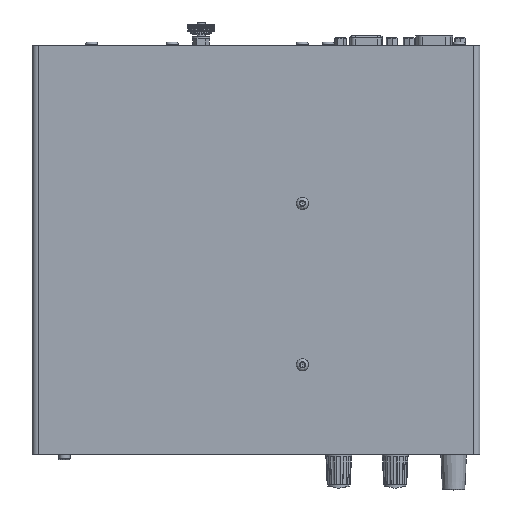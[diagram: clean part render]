
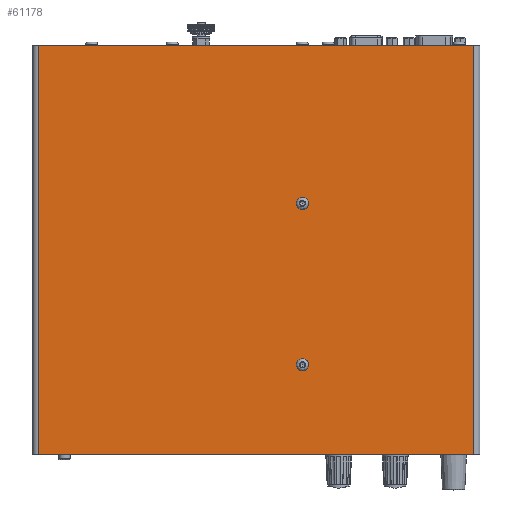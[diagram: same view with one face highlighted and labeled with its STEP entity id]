
A CAD part, top view. The second image highlights one B-rep face of the part: STEP entity #61178.
In plain terms, the highlighted planar face has unit normal (0, 0, 1).
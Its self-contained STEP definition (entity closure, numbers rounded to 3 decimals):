
#2688=FACE_BOUND('',#14449,.T.);
#2689=FACE_BOUND('',#14450,.T.);
#4505=PLANE('',#66341);
#10534=FACE_OUTER_BOUND('',#14448,.T.);
#14448=EDGE_LOOP('',(#53038,#53039,#53040,#53041));
#14449=EDGE_LOOP('',(#53042));
#14450=EDGE_LOOP('',(#53043));
#17549=CIRCLE('',#66342,3.);
#17550=CIRCLE('',#66343,3.);
#21615=LINE('',#105648,#26007);
#21626=LINE('',#105678,#26018);
#21628=LINE('',#105685,#26020);
#21631=LINE('',#105691,#26023);
#26007=VECTOR('',#79573,10.);
#26018=VECTOR('',#79602,10.);
#26020=VECTOR('',#79612,10.);
#26023=VECTOR('',#79621,10.);
#31436=VERTEX_POINT('',#105645);
#31437=VERTEX_POINT('',#105647);
#31446=VERTEX_POINT('',#105675);
#31447=VERTEX_POINT('',#105677);
#31449=VERTEX_POINT('',#105697);
#31450=VERTEX_POINT('',#105699);
#38912=EDGE_CURVE('',#31436,#31437,#21615,.T.);
#38928=EDGE_CURVE('',#31446,#31447,#21626,.T.);
#38932=EDGE_CURVE('',#31436,#31447,#21628,.T.);
#38935=EDGE_CURVE('',#31446,#31437,#21631,.T.);
#38938=EDGE_CURVE('',#31449,#31449,#17549,.T.);
#38939=EDGE_CURVE('',#31450,#31450,#17550,.T.);
#53038=ORIENTED_EDGE('',*,*,#38935,.T.);
#53039=ORIENTED_EDGE('',*,*,#38912,.F.);
#53040=ORIENTED_EDGE('',*,*,#38932,.T.);
#53041=ORIENTED_EDGE('',*,*,#38928,.F.);
#53042=ORIENTED_EDGE('',*,*,#38938,.T.);
#53043=ORIENTED_EDGE('',*,*,#38939,.T.);
#61178=ADVANCED_FACE('',(#10534,#2688,#2689),#4505,.T.);
#66341=AXIS2_PLACEMENT_3D('',#105696,#79628,#79629);
#66342=AXIS2_PLACEMENT_3D('',#105698,#79630,#79631);
#66343=AXIS2_PLACEMENT_3D('',#105700,#79632,#79633);
#79573=DIRECTION('',(1.,0.,0.));
#79602=DIRECTION('',(-1.,0.,0.));
#79612=DIRECTION('',(0.,-1.,0.));
#79621=DIRECTION('',(0.,1.,0.));
#79628=DIRECTION('center_axis',(0.,0.,
1.));
#79629=DIRECTION('ref_axis',(1.,0.,0.));
#79630=DIRECTION('center_axis',(0.,0.,
-1.));
#79631=DIRECTION('ref_axis',(-1.,0.,0.));
#79632=DIRECTION('center_axis',(0.,0.,
-1.));
#79633=DIRECTION('ref_axis',(-1.,0.,0.));
#105645=CARTESIAN_POINT('',(-108.,101.5,52.));
#105647=CARTESIAN_POINT('',(108.,101.5,52.));
#105648=CARTESIAN_POINT('',(-111.,101.5,52.));
#105675=CARTESIAN_POINT('',(108.,-101.5,52.));
#105677=CARTESIAN_POINT('',(-108.,-101.5,52.));
#105678=CARTESIAN_POINT('',(111.,-101.5,52.));
#105685=CARTESIAN_POINT('',(-108.,50.75,52.));
#105691=CARTESIAN_POINT('',(108.,-50.75,52.));
#105696=CARTESIAN_POINT('Origin',(0.,0.,
52.));
#105697=CARTESIAN_POINT('',(26.,23.,52.));
#105698=CARTESIAN_POINT('Origin',(23.,23.,52.));
#105699=CARTESIAN_POINT('',(26.,-57.,52.));
#105700=CARTESIAN_POINT('Origin',(23.,-57.,52.));
